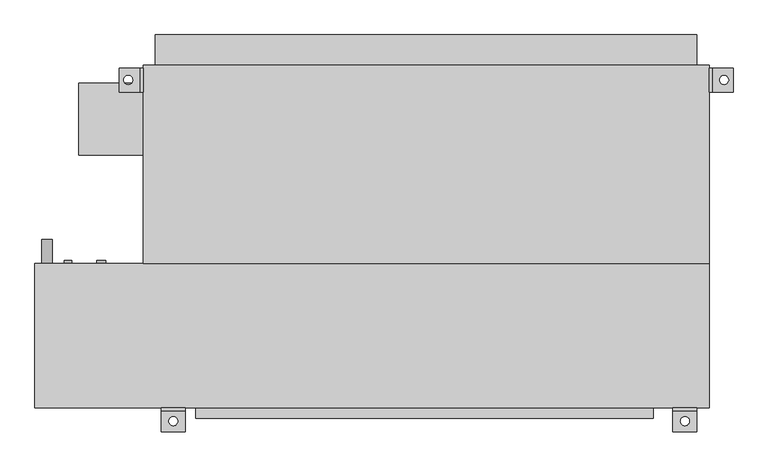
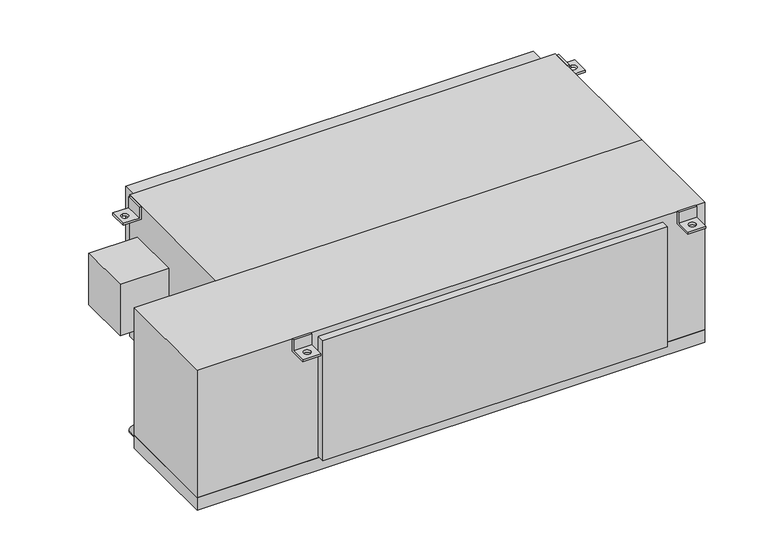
"""IFC4 building model written with IfcOpenShell, lengths in millimetres: proxy geometry, Concealed_High_Capacity_Horizontal_Fan_Coil_Unit_With_Plenum_-_42DCA_-_CARRIER_-_4-Pipe_ValveEnclosure_LH_2022 : Size 16 - 277v/60Hz/1Ph - 6/2 Coil."""

from ifc_helpers import new_model, si_unit, point, frame, frame_2d, origin, place, context, project, spatial, polyline, circle_curve, trimmed, segment, composite_curve, outline, extrude, source, transform, mapped, element, save
from ifc_brep_helpers import plane_surface, revolved_surface, advanced_brep


def mechanical_equipment_1070f4e9(model_context):
    return source(origin(), model_context, "Body", "SolidModel", [
        advanced_brep(
        [(723.9, -390.525, 0.0), (723.9, -396.875, 0.0), (723.9, -396.875, -31.75), (723.9, -441.325, -31.75), (723.9, -441.325, -38.1), (723.9, -390.525, -38.1), (673.1, -390.525, 0.0), (673.1, -390.525, -38.1), (673.1, -441.325, -38.1), (673.1, -441.325, -31.75), (673.1, -396.875, -31.75), (673.1, -396.875, 0.0), (688.975, -419.1, -31.75), (708.025, -419.1, -31.75), (708.025, -419.1, -38.1), (688.975, -419.1, -38.1)],
        [
            (0, 1),
            (1, 2),
            (2, 3),
            (3, 4),
            (4, 5),
            (5, 0),
            (6, 7),
            (7, 8),
            (8, 9),
            (9, 10),
            (10, 11),
            (11, 6),
            (0, 6),
            (11, 1),
            (10, 2),
            (9, 3),
            (12, 13, circle_curve(frame((698.5, -419.1, -31.75), z_axis=(0.0, 0.0, -1.0), x_axis=(1.0, 0.0, 0.0)), 9.525)),
            (13, 12, circle_curve(frame((698.5, -419.1, -31.75), z_axis=(0.0, 0.0, -1.0), x_axis=(1.0, 0.0, 0.0)), 9.525)),
            (8, 4),
            (7, 5),
            (14, 15, circle_curve(frame((698.5, -419.1, -38.1), z_axis=(0.0, 0.0, 1.0), x_axis=(1.0, 0.0, 0.0)), 9.525)),
            (15, 14, circle_curve(frame((698.5, -419.1, -38.1), z_axis=(0.0, 0.0, 1.0), x_axis=(1.0, 0.0, 0.0)), 9.525)),
            (12, 15),
            (14, 13),
        ],
        [
            plane_surface(frame((723.9, -396.875, 0.0), z_axis=(1.0, 0.0, 0.0), x_axis=(0.0, -1.0, 0.0))),
            plane_surface(frame((673.1, -396.875, 0.0), z_axis=(-1.0, 0.0, 0.0), x_axis=(0.0, 1.0, 0.0))),
            plane_surface(frame((723.9, -390.525, 0.0), z_axis=(0.0, 0.0, 1.0), x_axis=(-1.0, 0.0, 0.0))),
            plane_surface(frame((723.9, -396.875, 0.0), z_axis=(0.0, -1.0, 0.0), x_axis=(-1.0, 0.0, 0.0))),
            plane_surface(frame((723.9, -396.875, -31.75), z_axis=(0.0, 0.0, 1.0), x_axis=(-1.0, 0.0, 0.0))),
            plane_surface(frame((723.9, -441.325, -31.75), z_axis=(0.0, -1.0, 0.0), x_axis=(-1.0, 0.0, 0.0))),
            plane_surface(frame((723.9, -441.325, -38.1), z_axis=(0.0, 0.0, -1.0), x_axis=(-1.0, 0.0, 0.0))),
            plane_surface(frame((723.9, -390.525, -38.1), z_axis=(0.0, 1.0, 0.0), x_axis=(-1.0, 0.0, 0.0))),
            revolved_surface(polyline([(708.025, -419.1, -38.1), (708.025, -419.1, -31.75)]), (698.5, -419.1, -31.75), (0.0, 0.0, -1.0)),
        ],
        [
            (0, [[1, 2, 3, 4, 5, 6]]),
            (1, [[7, 8, 9, 10, 11, 12]]),
            (2, [[-1, 13, -12, 14]]),
            (3, [[-2, -14, -11, 15]]),
            (4, [[-3, -15, -10, 16], [17, 18]]),
            (5, [[-4, -16, -9, 19]]),
            (6, [[-5, -19, -8, 20], [21, 22]]),
            (7, [[-6, -20, -7, -13]]),
            (8, [[23, -21, 24, -17]]),
            (8, [[-23, -18, -24, -22]]),
        ],
    ),
        advanced_brep(
        [(-355.6, -390.525, -38.1), (-355.6, -390.525, 0.0), (-355.6, -396.875, 0.0), (-355.6, -396.875, -31.75), (-355.6, -441.325, -31.75), (-355.6, -441.325, -38.1), (-406.4, -390.525, -38.1), (-406.4, -441.325, -38.1), (-406.4, -441.325, -31.75), (-406.4, -396.875, -31.75), (-406.4, -396.875, 0.0), (-406.4, -390.525, 0.0), (-390.525, -419.1, -31.75), (-371.475, -419.1, -31.75), (-371.475, -419.1, -38.1), (-390.525, -419.1, -38.1)],
        [
            (0, 1),
            (1, 2),
            (2, 3),
            (3, 4),
            (4, 5),
            (5, 0),
            (6, 7),
            (7, 8),
            (8, 9),
            (9, 10),
            (10, 11),
            (11, 6),
            (0, 6),
            (11, 1),
            (10, 2),
            (9, 3),
            (8, 4),
            (12, 13, circle_curve(frame((-381.0, -419.1, -31.75), z_axis=(0.0, 0.0, -1.0), x_axis=(1.0, 0.0, 0.0)), 9.525)),
            (13, 12, circle_curve(frame((-381.0, -419.1, -31.75), z_axis=(0.0, 0.0, -1.0), x_axis=(1.0, 0.0, 0.0)), 9.525)),
            (7, 5),
            (14, 15, circle_curve(frame((-381.0, -419.1, -38.1), z_axis=(0.0, 0.0, 1.0), x_axis=(1.0, 0.0, 0.0)), 9.525)),
            (15, 14, circle_curve(frame((-381.0, -419.1, -38.1), z_axis=(0.0, 0.0, 1.0), x_axis=(1.0, 0.0, 0.0)), 9.525)),
            (12, 15),
            (14, 13),
        ],
        [
            plane_surface(frame((-355.6, -390.525, -38.1), z_axis=(1.0, 0.0, 0.0), x_axis=(0.0, 0.0, 1.0))),
            plane_surface(frame((-406.4, -390.525, -38.1), z_axis=(-1.0, 0.0, 0.0), x_axis=(0.0, 0.0, -1.0))),
            plane_surface(frame((-355.6, -390.525, -38.1), z_axis=(0.0, 1.0, 0.0), x_axis=(-1.0, 0.0, 0.0))),
            plane_surface(frame((-355.6, -390.525, 0.0), z_axis=(0.0, 0.0, 1.0), x_axis=(-1.0, 0.0, 0.0))),
            plane_surface(frame((-355.6, -396.875, 0.0), z_axis=(0.0, -1.0, 0.0), x_axis=(-1.0, 0.0, 0.0))),
            plane_surface(frame((-355.6, -396.875, -31.75), z_axis=(0.0, 0.0, 1.0), x_axis=(-1.0, 0.0, 0.0))),
            plane_surface(frame((-355.6, -441.325, -31.75), z_axis=(0.0, -1.0, 0.0), x_axis=(-1.0, 0.0, 0.0))),
            plane_surface(frame((-355.6, -441.325, -38.1), z_axis=(0.0, 0.0, -1.0), x_axis=(-1.0, 0.0, 0.0))),
            revolved_surface(polyline([(-371.475, -419.1, -38.1), (-371.475, -419.1, -31.75)]), (-381.0, -419.1, -31.75), (0.0, 0.0, -1.0)),
        ],
        [
            (0, [[1, 2, 3, 4, 5, 6]]),
            (1, [[7, 8, 9, 10, 11, 12]]),
            (2, [[-1, 13, -12, 14]]),
            (3, [[-2, -14, -11, 15]]),
            (4, [[-3, -15, -10, 16]]),
            (5, [[-4, -16, -9, 17], [18, 19]]),
            (6, [[-5, -17, -8, 20]]),
            (7, [[-6, -20, -7, -13], [21, 22]]),
            (8, [[23, -21, 24, -18]]),
            (8, [[-23, -19, -24, -22]]),
        ],
    ),
        extrude(outline(composite_curve([segment(trimmed(circle_curve(frame_2d((-400.05, -647.7)), 11.1125), [point((-400.05, -658.8125))], [point((-400.05, -636.5875))], False, "CARTESIAN"), True, "CONTINUOUS"), segment(trimmed(circle_curve(frame_2d((-400.05, -647.7)), 11.1125), [point((-400.05, -636.5875))], [point((-400.05, -658.8125))], False, "CARTESIAN"), True, "CONTINUOUS")], self_intersect=False)), frame((0.0, -85.725, 0.0), z_axis=(0.0, 1.0, 0.0), x_axis=(0.0, 0.0, 1.0)), (0.0, 0.0, 1.0), 50.8),
        extrude(outline(composite_curve([segment(trimmed(circle_curve(frame_2d((-44.45, -533.4)), 9.525), [point((-44.45, -542.925))], [point((-44.45, -523.875))], False, "CARTESIAN"), True, "CONTINUOUS"), segment(trimmed(circle_curve(frame_2d((-44.45, -533.4)), 9.525), [point((-44.45, -523.875))], [point((-44.45, -542.925))], False, "CARTESIAN"), True, "CONTINUOUS")], self_intersect=False)), frame((0.0, -85.725, 0.0), z_axis=(0.0, 1.0, 0.0), x_axis=(0.0, 0.0, 1.0)), (0.0, 0.0, 1.0), 6.35),
        extrude(outline(composite_curve([segment(trimmed(circle_curve(frame_2d((-276.225, -533.4)), 9.525), [point((-276.225, -542.925))], [point((-276.225, -523.875))], False, "CARTESIAN"), True, "CONTINUOUS"), segment(trimmed(circle_curve(frame_2d((-276.225, -533.4)), 9.525), [point((-276.225, -523.875))], [point((-276.225, -542.925))], False, "CARTESIAN"), True, "CONTINUOUS")], self_intersect=False)), frame((0.0, -85.725, 0.0), z_axis=(0.0, 1.0, 0.0), x_axis=(0.0, 0.0, 1.0)), (0.0, 0.0, 1.0), 6.35),
        extrude(outline(composite_curve([segment(trimmed(circle_curve(frame_2d((-69.85, -603.25)), 7.9375), [point((-69.85, -611.1875))], [point((-69.85, -595.3125))], False, "CARTESIAN"), True, "CONTINUOUS"), segment(trimmed(circle_curve(frame_2d((-69.85, -603.25)), 7.9375), [point((-69.85, -595.3125))], [point((-69.85, -611.1875))], False, "CARTESIAN"), True, "CONTINUOUS")], self_intersect=False)), frame((0.0, -85.725, 0.0), z_axis=(0.0, 1.0, 0.0), x_axis=(0.0, 0.0, 1.0)), (0.0, 0.0, 1.0), 6.35),
        extrude(outline(composite_curve([segment(trimmed(circle_curve(frame_2d((-285.75, -603.25)), 7.9375), [point((-285.75, -611.1875))], [point((-285.75, -595.3125))], False, "CARTESIAN"), True, "CONTINUOUS"), segment(trimmed(circle_curve(frame_2d((-285.75, -603.25)), 7.9375), [point((-285.75, -595.3125))], [point((-285.75, -611.1875))], False, "CARTESIAN"), True, "CONTINUOUS")], self_intersect=False)), frame((0.0, -85.725, 0.0), z_axis=(0.0, 1.0, 0.0), x_axis=(0.0, 0.0, 1.0)), (0.0, 0.0, 1.0), 6.35),
        advanced_brep(
        [(-444.5, 327.025, -38.1), (-495.3, 327.025, -38.1), (-495.3, 327.025, -31.75), (-450.85, 327.025, -31.75), (-450.85, 327.025, 0.0), (-444.5, 327.025, 0.0), (-444.5, 276.225, -38.1), (-444.5, 276.225, 0.0), (-450.85, 276.225, 0.0), (-450.85, 276.225, -31.75), (-495.3, 276.225, -31.75), (-495.3, 276.225, -38.1), (-476.25, 292.1, -38.1), (-476.25, 311.15, -38.1), (-476.25, 311.15, -31.75), (-476.25, 292.1, -31.75)],
        [
            (0, 1),
            (1, 2),
            (2, 3),
            (3, 4),
            (4, 5),
            (5, 0),
            (6, 7),
            (7, 8),
            (8, 9),
            (9, 10),
            (10, 11),
            (11, 6),
            (0, 6),
            (11, 1),
            (12, 13, circle_curve(frame((-476.25, 301.625, -38.1), z_axis=(0.0, 0.0, 1.0), x_axis=(0.0, -1.0, 0.0)), 9.525)),
            (13, 12, circle_curve(frame((-476.25, 301.625, -38.1), z_axis=(0.0, 0.0, 1.0), x_axis=(0.0, -1.0, 0.0)), 9.525)),
            (10, 2),
            (9, 3),
            (14, 15, circle_curve(frame((-476.25, 301.625, -31.75), z_axis=(0.0, 0.0, -1.0), x_axis=(0.0, -1.0, 0.0)), 9.525)),
            (15, 14, circle_curve(frame((-476.25, 301.625, -31.75), z_axis=(0.0, 0.0, -1.0), x_axis=(0.0, -1.0, 0.0)), 9.525)),
            (8, 4),
            (7, 5),
            (14, 13),
            (12, 15),
        ],
        [
            plane_surface(frame((-444.5, 327.025, -38.1), z_axis=(0.0, 1.0, 0.0), x_axis=(-1.0, 0.0, 0.0))),
            plane_surface(frame((-444.5, 276.225, -38.1), z_axis=(0.0, -1.0, 0.0), x_axis=(1.0, 0.0, 0.0))),
            plane_surface(frame((-444.5, 327.025, -38.1), z_axis=(0.0, 0.0, -1.0), x_axis=(0.0, -1.0, 0.0))),
            plane_surface(frame((-495.3, 327.025, -38.1), z_axis=(-1.0, 0.0, 0.0), x_axis=(0.0, -1.0, 0.0))),
            plane_surface(frame((-495.3, 327.025, -31.75), z_axis=(0.0, 0.0, 1.0), x_axis=(0.0, -1.0, 0.0))),
            plane_surface(frame((-450.85, 327.025, -31.75), z_axis=(-1.0, 0.0, 0.0), x_axis=(0.0, -1.0, 0.0))),
            plane_surface(frame((-450.85, 327.025, 0.0), z_axis=(0.0, 0.0, 1.0), x_axis=(0.0, -1.0, 0.0))),
            plane_surface(frame((-444.5, 327.025, 0.0), z_axis=(1.0, 0.0, 0.0), x_axis=(0.0, -1.0, 0.0))),
            revolved_surface(polyline([(-476.25, 292.1, -38.1), (-476.25, 292.1, -31.75)]), (-476.25, 301.625, -31.75), (0.0, 0.0, -1.0)),
        ],
        [
            (0, [[1, 2, 3, 4, 5, 6]]),
            (1, [[7, 8, 9, 10, 11, 12]]),
            (2, [[-1, 13, -12, 14], [15, 16]]),
            (3, [[-2, -14, -11, 17]]),
            (4, [[-3, -17, -10, 18], [19, 20]]),
            (5, [[-4, -18, -9, 21]]),
            (6, [[-5, -21, -8, 22]]),
            (7, [[-6, -22, -7, -13]]),
            (8, [[23, -15, 24, -19]]),
            (8, [[-23, -20, -24, -16]]),
        ],
    ),
        advanced_brep(
        [(749.3, 327.025, -38.1), (749.3, 327.025, 0.0), (755.65, 327.025, 0.0), (755.65, 327.025, -31.75), (800.1, 327.025, -31.75), (800.1, 327.025, -38.1), (749.3, 276.225, -38.1), (800.1, 276.225, -38.1), (800.1, 276.225, -31.75), (755.65, 276.225, -31.75), (755.65, 276.225, 0.0), (749.3, 276.225, 0.0), (781.05, 311.15, -31.75), (781.05, 292.1, -31.75), (781.05, 292.1, -38.1), (781.05, 311.15, -38.1)],
        [
            (0, 1),
            (1, 2),
            (2, 3),
            (3, 4),
            (4, 5),
            (5, 0),
            (6, 7),
            (7, 8),
            (8, 9),
            (9, 10),
            (10, 11),
            (11, 6),
            (0, 6),
            (11, 1),
            (10, 2),
            (9, 3),
            (8, 4),
            (12, 13, circle_curve(frame((781.05, 301.625, -31.75), z_axis=(0.0, 0.0, -1.0), x_axis=(0.0, -1.0, 0.0)), 9.525)),
            (13, 12, circle_curve(frame((781.05, 301.625, -31.75), z_axis=(0.0, 0.0, -1.0), x_axis=(0.0, -1.0, 0.0)), 9.525)),
            (7, 5),
            (14, 15, circle_curve(frame((781.05, 301.625, -38.1), z_axis=(0.0, 0.0, 1.0), x_axis=(0.0, -1.0, 0.0)), 9.525)),
            (15, 14, circle_curve(frame((781.05, 301.625, -38.1), z_axis=(0.0, 0.0, 1.0), x_axis=(0.0, -1.0, 0.0)), 9.525)),
            (12, 15),
            (14, 13),
        ],
        [
            plane_surface(frame((-444.5, 327.025, -38.1), z_axis=(0.0, 1.0, 0.0), x_axis=(-1.0, 0.0, 0.0))),
            plane_surface(frame((-444.5, 276.225, -38.1), z_axis=(0.0, -1.0, 0.0), x_axis=(1.0, 0.0, 0.0))),
            plane_surface(frame((749.3, 327.025, -38.1), z_axis=(-1.0, 0.0, 0.0), x_axis=(0.0, -1.0, 0.0))),
            plane_surface(frame((749.3, 327.025, 0.0), z_axis=(0.0, 0.0, 1.0), x_axis=(0.0, -1.0, 0.0))),
            plane_surface(frame((755.65, 327.025, 0.0), z_axis=(1.0, 0.0, 0.0), x_axis=(0.0, -1.0, 0.0))),
            plane_surface(frame((755.65, 327.025, -31.75), z_axis=(0.0, 0.0, 1.0), x_axis=(0.0, -1.0, 0.0))),
            plane_surface(frame((800.1, 327.025, -31.75), z_axis=(1.0, 0.0, 0.0), x_axis=(0.0, -1.0, 0.0))),
            plane_surface(frame((800.1, 327.025, -38.1), z_axis=(0.0, 0.0, -1.0), x_axis=(0.0, -1.0, 0.0))),
            revolved_surface(polyline([(781.05, 292.1, -38.1), (781.05, 292.1, -31.75)]), (781.05, 301.625, -31.75), (0.0, 0.0, -1.0)),
        ],
        [
            (0, [[1, 2, 3, 4, 5, 6]]),
            (1, [[7, 8, 9, 10, 11, 12]]),
            (2, [[-1, 13, -12, 14]]),
            (3, [[-2, -14, -11, 15]]),
            (4, [[-3, -15, -10, 16]]),
            (5, [[-4, -16, -9, 17], [18, 19]]),
            (6, [[-5, -17, -8, 20]]),
            (7, [[-6, -20, -7, -13], [21, 22]]),
            (8, [[23, -21, 24, -18]]),
            (8, [[-23, -19, -24, -22]]),
        ],
    ),
        extrude(outline(polyline([(-419.1, 396.875), (723.9, 396.875), (723.9, 333.375), (-419.1, 333.375), (-419.1, 396.875)])), frame((0.0, 0.0, -377.825), z_axis=(0.0, 0.0, 1.0), x_axis=(1.0, 0.0, 0.0)), (0.0, 0.0, 1.0), 355.6),
        extrude(outline(polyline([(-581.025, 142.875), (-581.025, 295.275), (-444.5, 295.275), (-444.5, 142.875), (-581.025, 142.875)])), frame((0.0, 0.0, -254.0), z_axis=(0.0, 0.0, 1.0), x_axis=(1.0, 0.0, 0.0)), (0.0, 0.0, 1.0), 152.4),
        extrude(outline(polyline([(631.825, -412.75), (-333.375, -412.75), (-333.375, -390.525), (631.825, -390.525), (631.825, -412.75)])), frame((0.0, 0.0, -374.65), z_axis=(0.0, 0.0, 1.0), x_axis=(1.0, 0.0, 0.0)), (0.0, 0.0, 1.0), 355.6),
        extrude(outline(polyline([(749.3, -85.725), (-444.5, -85.725), (-444.5, 333.375), (749.3, 333.375), (749.3, -85.725)])), frame((0.0, 0.0, -419.1), z_axis=(0.0, 0.0, 1.0), x_axis=(1.0, 0.0, 0.0)), (0.0, 0.0, 1.0), 419.1),
        extrude(outline(polyline([(749.3, -85.725), (749.3, -390.525), (-673.1, -390.525), (-673.1, -85.725), (749.3, -85.725)])), frame((0.0, 0.0, -377.825), z_axis=(0.0, 0.0, 1.0), x_axis=(1.0, 0.0, 0.0)), (0.0, 0.0, 1.0), 377.825),
        extrude(outline(polyline([(749.3, -85.725), (749.3, -390.525), (-673.1, -390.525), (-673.1, -85.725), (749.3, -85.725)])), frame((0.0, 0.0, -415.925), z_axis=(0.0, 0.0, 1.0), x_axis=(1.0, 0.0, 0.0)), (0.0, 0.0, 1.0), 38.1),
    ])


if __name__ == "__main__":
    model = new_model("IFC4")
    model_context = context("Model", 3, world=origin())
    ifc_project = project(units=[si_unit("LENGTHUNIT", "METRE", prefix="MILLI")], contexts=[model_context])
    site = spatial("IfcSite", under=ifc_project)
    building = spatial("IfcBuilding", under=site)
    placement = place(None, origin())
    mechanical_equipment_shape = mechanical_equipment_1070f4e9(model_context)
    element("IfcBuildingElementProxy", 1, Name="Concealed_High_Capacity_Horizontal_Fan_Coil_Unit_With_Plenum_-_42DCA_-_CARRIER_-_4-Pipe_ValveEnclosure_LH_2022 : Size 16 - 277v/60Hz/1Ph - 6/2 Coil", ObjectType="Concealed_High_Capacity_Horizontal_Fan_Coil_Unit_With_Plenum_-_42DCA_-_CARRIER_-_4-Pipe_ValveEnclosure_LH_2022 : Size 16 - 277v/60Hz/1Ph - 6/2 Coil", at=placement, inside=building, context=model_context, shape_type="MappedRepresentation", body=[
        mapped(mechanical_equipment_shape, transform((0.0, 0.0, 0.0), x_axis=(1.0, 0.0, 0.0), y_axis=(0.0, 1.0, 0.0), z_axis=(0.0, 0.0, 1.0))),
    ])
    save(model, "model.ifc")
